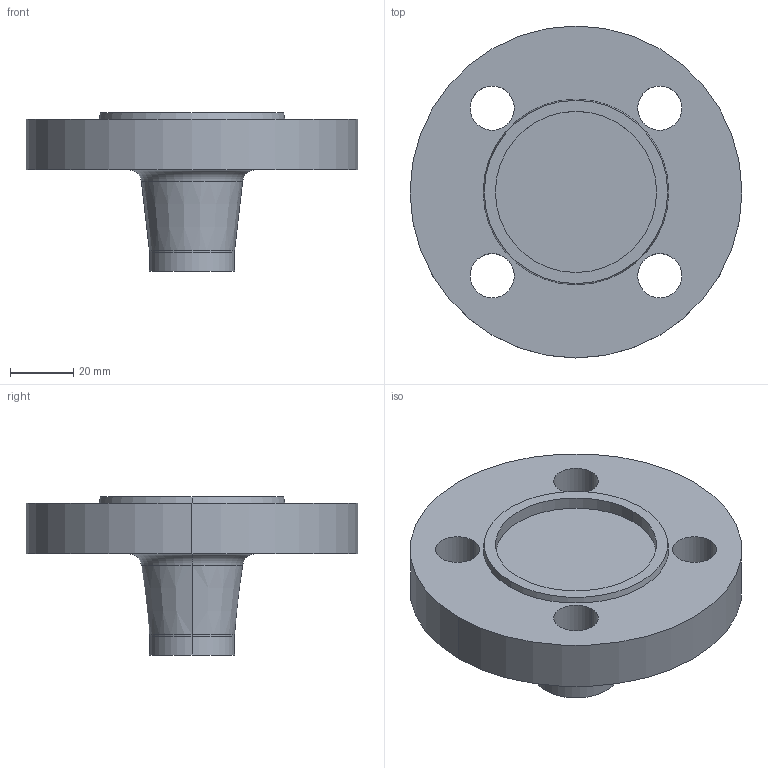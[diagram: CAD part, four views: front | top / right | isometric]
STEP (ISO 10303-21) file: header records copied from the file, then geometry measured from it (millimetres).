
FILE_DESCRIPTION (( 'STEP AP214' ), '1' );
FILE_NAME ('PN40 DN20 Type 21(ii) - Type F Face.STEP', '2018-12-29T16:11:14', ( '' ), ( '' ), 'SwSTEP 2.0', 'SolidWorks 2019', '' );
FILE_SCHEMA (( 'AUTOMOTIVE_DESIGN' ));
Length unit declared in the file: millimetre
Products named in the file (1): PN40 DN20 Type 21(ii) - Type F Face
Bounding box: 105 x 105 x 50 mm (x, y, z)
Volume: 147829.8 mm3; surface area: 27680.9 mm2
Topology: 1 solids, 1 shells, 27 faces, 60 edges, 38 vertices
Faces by surface type: cylinder 14, plane 5, torus 4, cone 4
Entity records: 818 total; most frequent: DIRECTION 158, CARTESIAN_POINT 126, ORIENTED_EDGE 120, AXIS2_PLACEMENT_3D 70, EDGE_CURVE 60, CIRCLE 42, EDGE_LOOP 38, VERTEX_POINT 38
